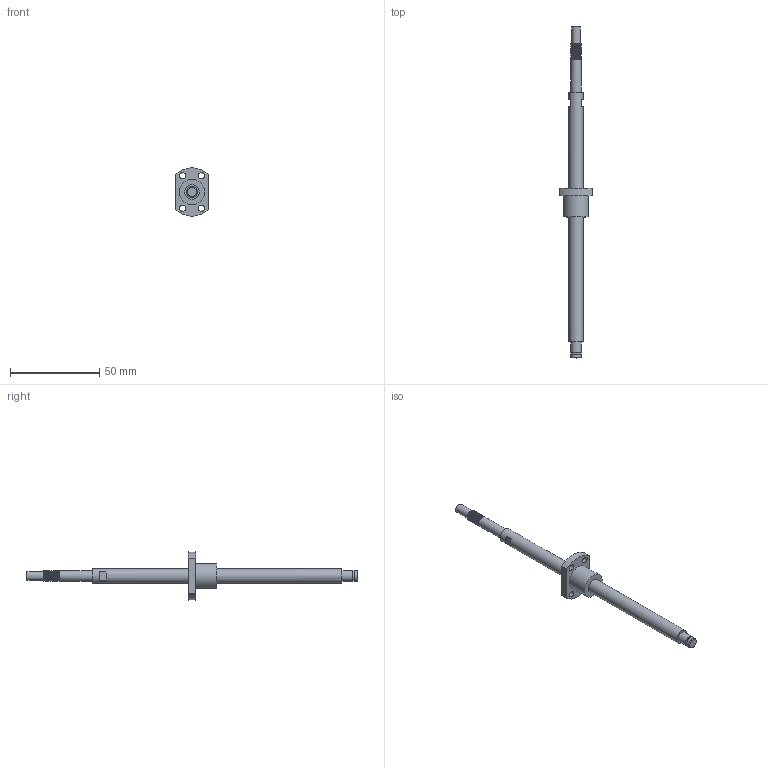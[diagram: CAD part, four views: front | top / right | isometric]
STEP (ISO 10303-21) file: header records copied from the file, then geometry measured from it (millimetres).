
FILE_DESCRIPTION(/* description */ (''),/* implementation_level */ '2;1');
FILE_NAME(/* name */ 'BSG24_asm1.stp',/* time_stamp */ '2017-01-06T13:25:06+08:00',/* author */ (''),/* organization */ (''),/* preprocessor_version */ 'ST-DEVELOPER v15',/* originating_system */ 'SIEMENS PLM Software NX 8.5',/* authorisation */ '');
FILE_SCHEMA (('AUTOMOTIVE_DESIGN { 1 0 10303 214 3 1 1 1 }'));
Length unit declared in the file: millimetre
Products named in the file (3): 01; BSG024; BSG24_asm1
Assembly tree (2 placements, depth 2):
  BSG24_asm1
    BSG024
    01
Bounding box: 18 x 186 x 26.91 mm (x, y, z)
Volume: 2677.5 mm3; surface area: 6676.4 mm2
Topology: 1 solids, 2 shells, 47 faces, 117 edges, 80 vertices
Faces by surface type: cylinder 23, plane 20, bspline 2, cone 2
Full cylindrical faces by diameter (mm): 3.5 x4, 5 x1, 5.7 x1, 6 x11, 8 x2, 14 x1
Entity records: 3579 total; most frequent: CARTESIAN_POINT 2718, DIRECTION 171, ORIENTED_EDGE 128, AXIS2_PLACEMENT_3D 76, EDGE_LOOP 71, EDGE_CURVE 64, FACE_BOUND 54, VERTEX_POINT 51
